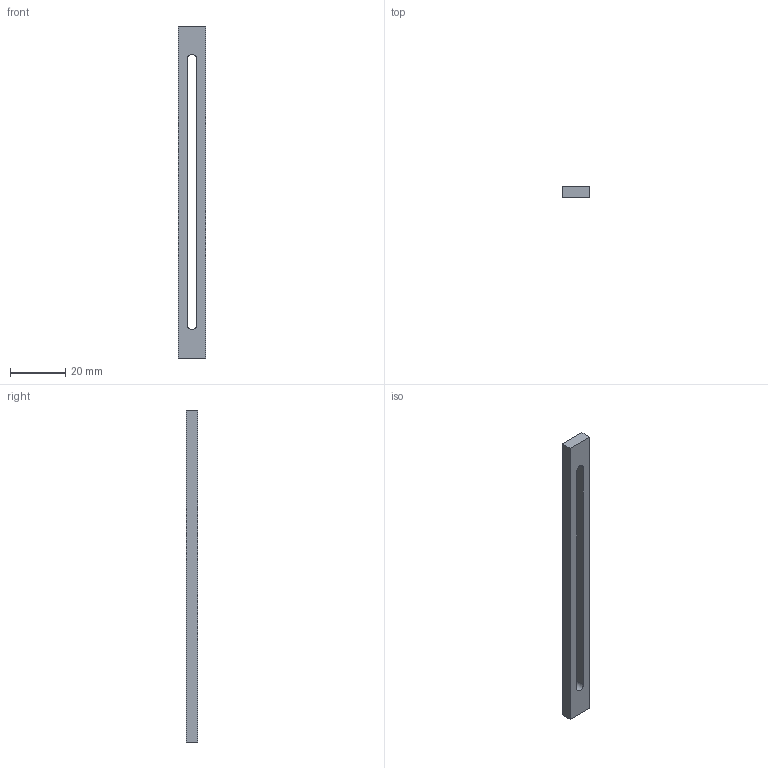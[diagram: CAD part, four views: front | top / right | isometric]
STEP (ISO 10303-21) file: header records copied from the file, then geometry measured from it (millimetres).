
FILE_DESCRIPTION(('Open CASCADE Model'),'2;1');
FILE_NAME('Open CASCADE Shape Model','2026-11-08T04:10:21',('Author'),( 'Open CASCADE'),'Open CASCADE STEP processor 7.8','Open CASCADE 7.8' ,'Unknown');
FILE_SCHEMA(('AUTOMOTIVE_DESIGN { 1 0 10303 214 1 1 1 1 }'));
Length unit declared in the file: millimetre
Products named in the file (1): Open CASCADE STEP translator 7.8 7
Bounding box: 10 x 4 x 120 mm (x, y, z)
Volume: 3458.1 mm3; surface area: 3579.8 mm2
Topology: 1 solids, 1 shells, 10 faces, 24 edges, 16 vertices
Faces by surface type: plane 8, cylinder 2
Entity records: 608 total; most frequent: CARTESIAN_POINT 109, DIRECTION 88, LINE 54, VECTOR 54, ORIENTED_EDGE 48, PCURVE 48, DEFINITIONAL_REPRESENTATION 48, EDGE_CURVE 24
